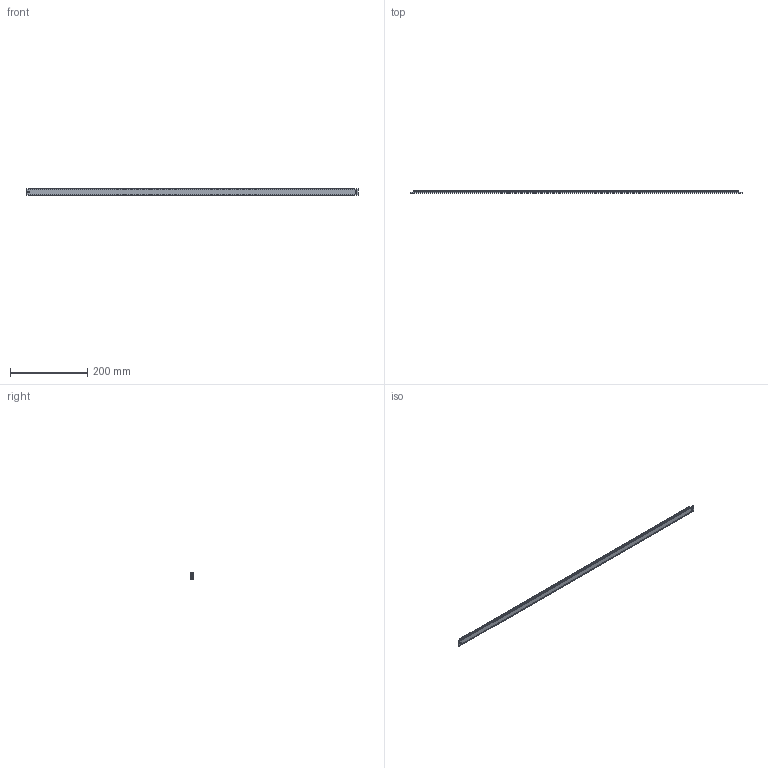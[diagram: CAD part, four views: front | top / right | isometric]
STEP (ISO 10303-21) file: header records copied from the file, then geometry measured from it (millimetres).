
FILE_DESCRIPTION (( 'STEP AP214' ), '1' );
FILE_NAME ('SAScale_exposed.ScaleLneght860.STEP', '2026-03-10T09:12:44', ( '' ), ( '' ), 'SwSTEP 2.0', 'SolidWorks 2024', '' );
FILE_SCHEMA (( 'AUTOMOTIVE_DESIGN' ));
Length unit declared in the file: millimetre
Products named in the file (1): SAScale_exposed.ScaleLneght860
Bounding box: 860 x 6 x 18 mm (x, y, z)
Volume: 84676.9 mm3; surface area: 73505.8 mm2
Topology: 2 solids, 2 shells, 52 faces, 141 edges, 94 vertices
Faces by surface type: plane 37, cylinder 15
Entity records: 2247 total; most frequent: CARTESIAN_POINT 288, ORIENTED_EDGE 282, DIRECTION 277, EDGE_CURVE 141, LINE 111, VECTOR 111, VERTEX_POINT 94, AXIS2_PLACEMENT_3D 83
